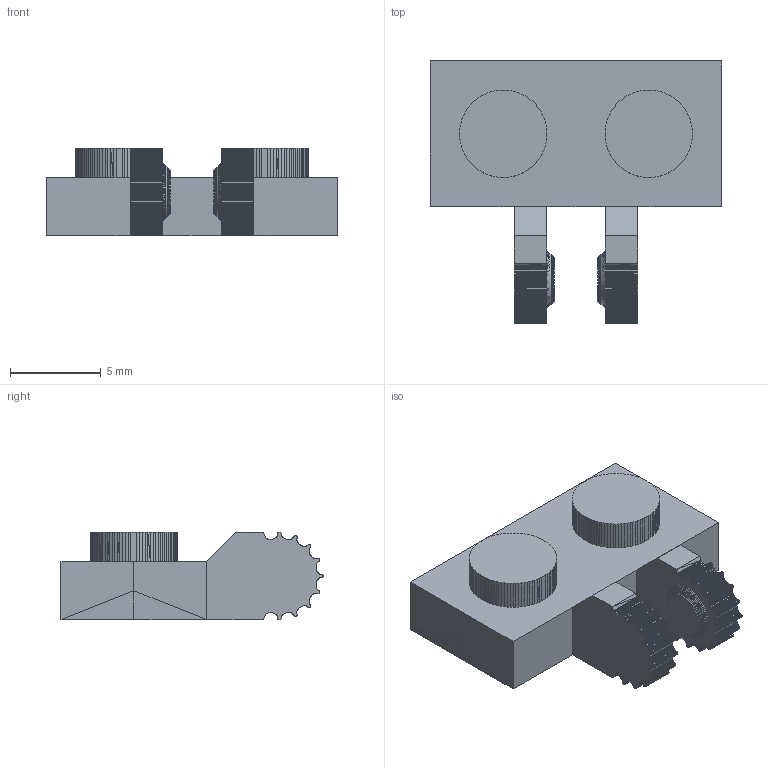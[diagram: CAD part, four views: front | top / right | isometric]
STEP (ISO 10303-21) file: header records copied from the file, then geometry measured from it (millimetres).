
FILE_DESCRIPTION(('Open CASCADE Model'),'2;1');
FILE_NAME('Open CASCADE Shape Model','2026-10-28T15:21:14',('Author'),( 'Open CASCADE'),'Open CASCADE STEP processor 7.9','Open CASCADE 7.9' ,'Unknown');
FILE_SCHEMA(('AUTOMOTIVE_DESIGN { 1 0 10303 214 1 1 1 1 }'));
Products named in the file (1): Open CASCADE STEP translator 7.9 1
Bounding box: 16.01 x 14.4 x 4.79 mm (x, y, z)
Volume: 476.3 mm3; surface area: 691.3 mm2
Topology: 1 solids, 1 shells, 2567 faces, 6071 edges, 3512 vertices
Faces by surface type: plane 2567
Entity records: 149010 total; most frequent: CARTESIAN_POINT 24293, DIRECTION 23349, LINE 18213, VECTOR 18213, ORIENTED_EDGE 12142, PCURVE 12142, DEFINITIONAL_REPRESENTATION 12142, EDGE_CURVE 6071
